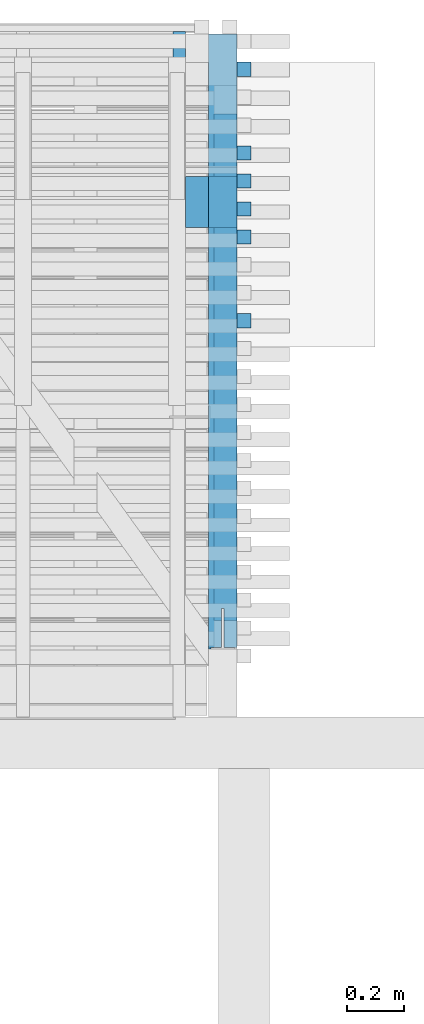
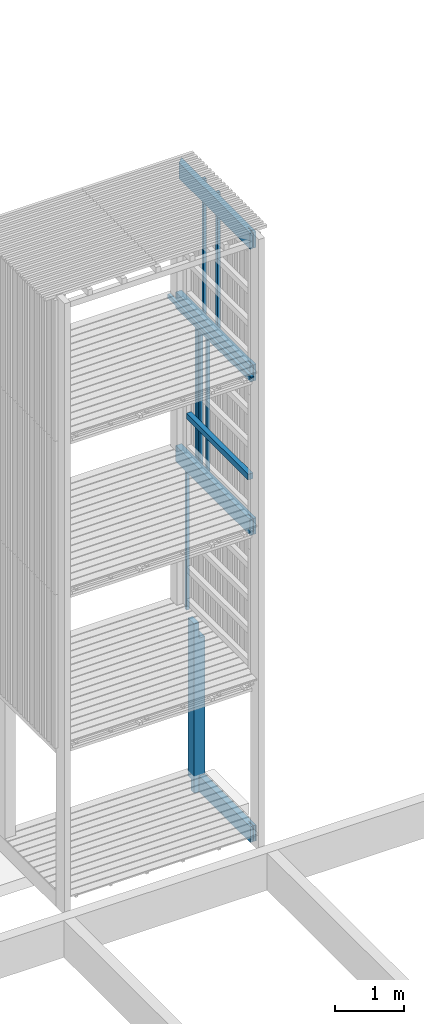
# One storey, part 158 of 182: 13 beams.
"""IFC2X3 building model written with IfcOpenShell, lengths in metres."""

from ifc_helpers import new_model, si_unit, frame, origin, place, context, project, spatial, faceted_brep, element, save


model = new_model("IFC2X3")

# Units and contexts
model_context = context("Model", 3, precision=1e-06, world=origin())
ifc_project = project(units=[si_unit("LENGTHUNIT", "METRE"), si_unit("PLANEANGLEUNIT", "RADIAN")], contexts=[model_context])

# Site, building, storey
site = spatial("IfcSite", under=ifc_project, CompositionType="ELEMENT")
building = spatial("IfcBuilding", under=site, CompositionType="ELEMENT")
storey = spatial("IfcBuildingStorey", under=building, Name="vs", CompositionType="ELEMENT", Elevation=-0.85)

# Beams
placement = place(None, origin())
beam_1_placement = place(placement, frame((36.40999999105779, 12.74689588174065, 2.575000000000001), z_axis=(-1.0, 0.0, 0.0), x_axis=(0.0, 0.0, 1.0)))
element("IfcBeam", 1, at=beam_1_placement, inside=storey, Name="Bardage", context=model_context, shape_type="Brep", body=[
    faceted_brep([(0.0, -0.025000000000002, 0.024999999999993), (0.0, 0.024999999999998, 0.024999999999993), (0.0, 0.024999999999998, -0.025000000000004), (0.0, -0.025000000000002, -0.025000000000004), (2.699961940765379, 0.025000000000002, -0.025000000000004), (2.699961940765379, 0.025000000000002, 0.024999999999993), (2.699961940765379, -0.025000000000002, 0.024999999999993), (2.699961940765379, -0.025000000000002, -0.025000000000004), (0.0, -0.025000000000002, -0.025000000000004), (0.0, 0.024999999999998, -0.025000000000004), (2.699961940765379, 0.025000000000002, -0.025000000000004), (2.699961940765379, -0.025000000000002, -0.025000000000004), (2.699961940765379, 0.025000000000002, -0.025000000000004), (0.0, 0.024999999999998, -0.025000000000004), (0.0, 0.024999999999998, 0.024999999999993), (2.699961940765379, 0.025000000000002, 0.024999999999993), (2.699961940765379, 0.025000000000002, 0.024999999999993), (0.0, 0.024999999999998, 0.024999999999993), (0.0, -0.025000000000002, 0.024999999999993), (2.699961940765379, -0.025000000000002, 0.024999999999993), (2.699961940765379, -0.025000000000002, 0.024999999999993), (0.0, -0.025000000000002, 0.024999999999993), (0.0, -0.025000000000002, -0.025000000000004), (2.699961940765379, -0.025000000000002, -0.025000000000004)], [[[0, 1, 2, 3]], [[4, 5, 6, 7]], [[8, 9, 10, 11]], [[12, 13, 14, 15]], [[16, 17, 18, 19]], [[20, 21, 22, 23]]]),
])
beam_2_placement = place(placement, frame((36.33499999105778, 10.71007769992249, -0.119999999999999), z_axis=(0.0, 0.0, 1.0), x_axis=(0.0, 1.0, 0.0)))
element("IfcBeam", 2, at=beam_2_placement, inside=storey, Name="Sommier", context=model_context, shape_type="Brep", body=[
    faceted_brep([(1.660000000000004, 0.049999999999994, 0.14), (1.660000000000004, -0.050000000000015, 0.14), (1.660000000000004, -0.050000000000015, -0.14), (1.660000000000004, 0.049999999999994, -0.14), (0.142000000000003, -0.004000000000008, -0.14), (0.142000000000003, 0.003999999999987, -0.14), (0.005000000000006, 0.003999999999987, -0.14), (0.005000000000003, 0.040999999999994, -0.14), (4e-15, 0.040999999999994, -0.14), (0.0, 0.049999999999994, -0.14), (1.660000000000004, 0.049999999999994, -0.14), (1.660000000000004, -0.050000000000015, -0.14), (0.0, -0.050000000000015, -0.14), (4e-15, -0.041000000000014, -0.14), (0.005000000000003, -0.041000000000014, -0.14), (0.005000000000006, -0.004000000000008, -0.14), (1.660000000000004, 0.049999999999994, 0.14), (1.660000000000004, 0.049999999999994, -0.14), (0.0, 0.049999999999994, -0.14), (0.0, 0.049999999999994, 0.14), (0.852999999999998, 0.049999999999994, -0.123600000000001), (0.852999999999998, 0.049999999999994, 0.051399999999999), (0.776999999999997, 0.049999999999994, 0.051399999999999), (0.776999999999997, 0.049999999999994, -0.123600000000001), (0.0, -0.050000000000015, 0.14), (4e-15, -0.041000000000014, 0.14), (4e-15, -0.041000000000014, -0.14), (0.0, -0.050000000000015, -0.14), (0.852999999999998, 0.044999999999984, -0.123600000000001), (0.776999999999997, 0.044999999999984, -0.123600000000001), (0.776999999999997, 0.044999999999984, 0.051399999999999), (0.852999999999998, 0.044999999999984, 0.051399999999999), (0.852999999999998, 0.044999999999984, 0.051399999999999), (0.776999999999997, 0.044999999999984, 0.051399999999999), (0.776999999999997, 0.049999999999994, 0.051399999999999), (0.852999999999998, 0.049999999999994, 0.051399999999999), (0.776999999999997, 0.044999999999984, -0.123600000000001), (0.852999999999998, 0.044999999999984, -0.123600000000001), (0.852999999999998, 0.049999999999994, -0.123600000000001), (0.776999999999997, 0.049999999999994, -0.123600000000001), (0.852999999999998, 0.049999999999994, 0.051399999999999), (0.852999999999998, 0.049999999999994, -0.123600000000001), (0.852999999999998, 0.044999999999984, -0.123600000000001), (0.852999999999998, 0.044999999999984, 0.051399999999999), (0.776999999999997, 0.044999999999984, 0.051399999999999), (0.776999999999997, 0.044999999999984, -0.123600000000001), (0.776999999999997, 0.049999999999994, -0.123600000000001), (0.776999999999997, 0.049999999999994, 0.051399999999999), (0.0, -0.050000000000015, -0.14), (1.660000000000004, -0.050000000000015, -0.14), (1.660000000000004, -0.050000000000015, 0.14), (0.0, -0.050000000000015, 0.14), (0.0, 0.049999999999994, 0.14), (0.0, 0.049999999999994, -0.14), (4e-15, 0.040999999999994, -0.14), (4e-15, 0.040999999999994, 0.14), (0.0, -0.050000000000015, 0.14), (1.660000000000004, -0.050000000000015, 0.14), (1.660000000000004, 0.049999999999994, 0.14), (0.0, 0.049999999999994, 0.14), (4e-15, 0.040999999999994, 0.14), (0.005000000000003, 0.040999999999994, 0.14), (0.005000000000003, 0.003999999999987, 0.14), (0.142000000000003, 0.003999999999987, 0.140000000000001), (0.142000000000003, -0.004000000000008, 0.140000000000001), (0.005000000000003, -0.004000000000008, 0.14), (0.005000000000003, -0.041000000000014, 0.14), (4e-15, -0.041000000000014, 0.14), (0.142000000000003, 0.003999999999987, -0.14), (0.142000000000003, -0.004000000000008, -0.14), (0.142000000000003, -0.004000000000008, 0.140000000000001), (0.142000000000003, 0.003999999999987, 0.140000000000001), (0.005000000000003, -0.004000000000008, 0.14), (0.142000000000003, -0.004000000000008, 0.140000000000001), (0.142000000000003, -0.004000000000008, -0.14), (0.005000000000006, -0.004000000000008, -0.14), (0.005000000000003, -0.004000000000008, 0.14), (0.005000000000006, -0.004000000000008, -0.14), (0.005000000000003, -0.041000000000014, -0.14), (0.005000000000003, -0.041000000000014, 0.14), (0.005000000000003, -0.041000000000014, 0.14), (0.005000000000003, -0.041000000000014, -0.14), (4e-15, -0.041000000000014, -0.14), (4e-15, -0.041000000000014, 0.14), (4e-15, 0.040999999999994, 0.14), (4e-15, 0.040999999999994, -0.14), (0.005000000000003, 0.040999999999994, -0.14), (0.005000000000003, 0.040999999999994, 0.14), (0.005000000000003, 0.040999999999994, 0.14), (0.005000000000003, 0.040999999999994, -0.14), (0.005000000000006, 0.003999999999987, -0.14), (0.005000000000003, 0.003999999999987, 0.14), (0.142000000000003, 0.003999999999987, 0.140000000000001), (0.005000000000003, 0.003999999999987, 0.14), (0.005000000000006, 0.003999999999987, -0.14), (0.142000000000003, 0.003999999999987, -0.14)], [[[0, 1, 2, 3]], [[4, 5, 6, 7, 8, 9, 10, 11, 12, 13, 14, 15]], [[16, 17, 18, 19], [20, 21, 22, 23]], [[24, 25, 26, 27]], [[28, 29, 30, 31]], [[32, 33, 34, 35]], [[36, 37, 38, 39]], [[40, 41, 42, 43]], [[44, 45, 46, 47]], [[48, 49, 50, 51]], [[52, 53, 54, 55]], [[56, 57, 58, 59, 60, 61, 62, 63, 64, 65, 66, 67]], [[68, 69, 70, 71]], [[72, 73, 74, 75]], [[76, 77, 78, 79]], [[80, 81, 82, 83]], [[84, 85, 86, 87]], [[88, 89, 90, 91]], [[92, 93, 94, 95]]]),
])
beam_3_placement = place(placement, frame((36.3349999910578, 10.715077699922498, 10.314999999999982), z_axis=(0.0, 0.0, 1.0), x_axis=(0.0, 1.0, 0.0)))
element("IfcBeam", 3, at=beam_3_placement, inside=storey, Name="Sommier", context=model_context, shape_type="Brep", body=[
    faceted_brep([(2.054999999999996, 0.049999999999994, 0.140000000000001), (2.054999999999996, 0.049999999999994, -0.140000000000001), (0.0, 0.049999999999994, -0.140000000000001), (0.0, 0.049999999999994, 0.140000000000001), (2.054999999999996, 0.049999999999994, -0.140000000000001), (2.054999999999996, 0.049999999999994, 0.140000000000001), (2.154999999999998, -0.05, 0.140000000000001), (2.154999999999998, -0.05, -0.140000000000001), (-4e-15, -0.003999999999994, 0.140000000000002), (0.0, -0.05, 0.140000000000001), (2.154999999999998, -0.05, 0.140000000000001), (2.054999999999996, 0.049999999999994, 0.140000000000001), (0.0, 0.049999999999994, 0.140000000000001), (-4e-15, 0.004000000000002, 0.140000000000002), (0.136999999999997, 0.004000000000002, 0.140000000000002), (0.136999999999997, -0.003999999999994, 0.140000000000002), (2.154999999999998, -0.05, -0.140000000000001), (2.154999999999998, -0.05, 0.140000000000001), (0.0, -0.05, 0.140000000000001), (0.0, -0.05, -0.140000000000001), (0.0, 0.004000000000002, -0.139999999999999), (-4e-15, 0.004000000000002, 0.140000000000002), (0.0, 0.049999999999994, 0.140000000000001), (0.0, 0.049999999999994, -0.140000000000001), (0.0, -0.05, 0.140000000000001), (-4e-15, -0.003999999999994, 0.140000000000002), (0.0, -0.003999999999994, -0.139999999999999), (0.0, -0.05, -0.140000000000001), (0.0, 0.049999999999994, -0.140000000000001), (2.054999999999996, 0.049999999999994, -0.140000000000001), (2.154999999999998, -0.05, -0.140000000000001), (0.0, -0.05, -0.140000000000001), (0.0, -0.003999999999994, -0.139999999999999), (0.136999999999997, -0.003999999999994, -0.139999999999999), (0.136999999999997, 0.004000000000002, -0.139999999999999), (0.0, 0.004000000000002, -0.139999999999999), (0.136999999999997, 0.004000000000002, -0.139999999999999), (0.136999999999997, -0.003999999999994, -0.139999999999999), (0.136999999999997, -0.003999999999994, 0.140000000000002), (0.136999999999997, 0.004000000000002, 0.140000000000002), (-4e-15, -0.003999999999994, 0.140000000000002), (0.136999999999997, -0.003999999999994, 0.140000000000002), (0.136999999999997, -0.003999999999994, -0.139999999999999), (0.0, -0.003999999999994, -0.139999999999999), (0.136999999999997, 0.004000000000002, 0.140000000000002), (-4e-15, 0.004000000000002, 0.140000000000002), (0.0, 0.004000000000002, -0.139999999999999), (0.136999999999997, 0.004000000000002, -0.139999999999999)], [[[0, 1, 2, 3]], [[4, 5, 6, 7]], [[8, 9, 10, 11, 12, 13, 14, 15]], [[16, 17, 18, 19]], [[20, 21, 22, 23]], [[24, 25, 26, 27]], [[28, 29, 30, 31, 32, 33, 34, 35]], [[36, 37, 38, 39]], [[40, 41, 42, 43]], [[44, 45, 46, 47]]]),
])
beam_4_placement = place(placement, frame((36.40999999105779, 12.157804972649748, 5.274999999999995), z_axis=(-1.0, 0.0, 0.0), x_axis=(0.0, 0.0, 1.0)))
element("IfcBeam", 4, at=beam_4_placement, inside=storey, Name="Bardage", context=model_context, shape_type="Brep", body=[
    faceted_brep([(1e-15, -0.024999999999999, 0.024999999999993), (1e-15, 0.024999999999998, 0.024999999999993), (1e-15, 0.024999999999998, -0.025000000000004), (1e-15, -0.024999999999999, -0.025000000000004), (2.699999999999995, -0.024999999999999, -0.025000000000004), (2.699999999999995, 0.025000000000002, -0.025000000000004), (2.699999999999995, 0.025000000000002, 0.024999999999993), (2.699999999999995, -0.024999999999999, 0.024999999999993), (1e-15, -0.024999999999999, 0.024999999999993), (1e-15, -0.024999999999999, -0.025000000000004), (2.699999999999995, -0.024999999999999, -0.025000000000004), (2.699999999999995, -0.024999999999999, 0.024999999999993), (2.699999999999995, -0.024999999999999, -0.025000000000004), (1e-15, -0.024999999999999, -0.025000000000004), (1e-15, 0.024999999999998, -0.025000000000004), (2.699999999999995, 0.025000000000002, -0.025000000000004), (2.699999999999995, 0.025000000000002, -0.025000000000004), (1e-15, 0.024999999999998, -0.025000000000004), (1e-15, 0.024999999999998, 0.024999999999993), (2.699999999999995, 0.025000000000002, 0.024999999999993), (2.699999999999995, 0.025000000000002, 0.024999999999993), (1e-15, 0.024999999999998, 0.024999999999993), (1e-15, -0.024999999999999, 0.024999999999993), (2.699999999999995, -0.024999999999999, 0.024999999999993)], [[[0, 1, 2, 3]], [[4, 5, 6, 7]], [[8, 9, 10, 11]], [[12, 13, 14, 15]], [[16, 17, 18, 19]], [[20, 21, 22, 23]]]),
])
beam_5_placement = place(placement, frame((36.40999999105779, 12.354168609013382, 5.274999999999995), z_axis=(-1.0, 0.0, 0.0), x_axis=(0.0, 0.0, 1.0)))
element("IfcBeam", 5, at=beam_5_placement, inside=storey, Name="Bardage", context=model_context, shape_type="Brep", body=[
    faceted_brep([(1e-15, -0.024999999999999, 0.024999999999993), (1e-15, 0.024999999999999, 0.024999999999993), (1e-15, 0.024999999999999, -0.025000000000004), (1e-15, -0.024999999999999, -0.025000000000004), (2.699999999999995, -0.024999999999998, -0.025000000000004), (2.699999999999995, 0.024999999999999, -0.025000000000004), (2.699999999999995, 0.024999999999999, 0.024999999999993), (2.699999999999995, -0.024999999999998, 0.024999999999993), (1e-15, -0.024999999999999, 0.024999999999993), (1e-15, -0.024999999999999, -0.025000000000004), (2.699999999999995, -0.024999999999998, -0.025000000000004), (2.699999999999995, -0.024999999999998, 0.024999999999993), (2.699999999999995, -0.024999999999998, -0.025000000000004), (1e-15, -0.024999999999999, -0.025000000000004), (1e-15, 0.024999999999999, -0.025000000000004), (2.699999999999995, 0.024999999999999, -0.025000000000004), (2.699999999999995, 0.024999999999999, -0.025000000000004), (1e-15, 0.024999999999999, -0.025000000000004), (1e-15, 0.024999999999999, 0.024999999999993), (2.699999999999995, 0.024999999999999, 0.024999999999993), (2.699999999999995, 0.024999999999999, 0.024999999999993), (1e-15, 0.024999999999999, 0.024999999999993), (1e-15, -0.024999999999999, 0.024999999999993), (2.699999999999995, -0.024999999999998, 0.024999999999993)], [[[0, 1, 2, 3]], [[4, 5, 6, 7]], [[8, 9, 10, 11]], [[12, 13, 14, 15]], [[16, 17, 18, 19]], [[20, 21, 22, 23]]]),
])
beam_6_placement = place(placement, frame((36.40999999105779, 12.452350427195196, 5.274999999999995), z_axis=(-1.0, 0.0, 0.0), x_axis=(0.0, 0.0, 1.0)))
element("IfcBeam", 6, at=beam_6_placement, inside=storey, Name="Bardage", context=model_context, shape_type="Brep", body=[
    faceted_brep([(1e-15, -0.024999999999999, 0.024999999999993), (1e-15, 0.025000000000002, 0.024999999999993), (1e-15, 0.025000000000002, -0.025000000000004), (1e-15, -0.024999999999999, -0.025000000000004), (2.699999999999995, -0.024999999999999, -0.025000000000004), (2.699999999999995, 0.025000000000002, -0.025000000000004), (2.699999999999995, 0.025000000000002, 0.024999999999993), (2.699999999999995, -0.024999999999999, 0.024999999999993), (1e-15, -0.024999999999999, 0.024999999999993), (1e-15, -0.024999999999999, -0.025000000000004), (2.699999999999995, -0.024999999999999, -0.025000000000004), (2.699999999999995, -0.024999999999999, 0.024999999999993), (2.699999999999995, -0.024999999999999, -0.025000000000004), (1e-15, -0.024999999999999, -0.025000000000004), (1e-15, 0.025000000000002, -0.025000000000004), (2.699999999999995, 0.025000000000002, -0.025000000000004), (2.699999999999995, 0.025000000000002, -0.025000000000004), (1e-15, 0.025000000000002, -0.025000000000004), (1e-15, 0.025000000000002, 0.024999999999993), (2.699999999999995, 0.025000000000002, 0.024999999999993), (2.699999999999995, 0.025000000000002, 0.024999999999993), (1e-15, 0.025000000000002, 0.024999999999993), (1e-15, -0.024999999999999, 0.024999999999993), (2.699999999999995, -0.024999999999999, 0.024999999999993)], [[[0, 1, 2, 3]], [[4, 5, 6, 7]], [[8, 9, 10, 11]], [[12, 13, 14, 15]], [[16, 17, 18, 19]], [[20, 21, 22, 23]]]),
])
beam_7_placement = place(placement, frame((36.29499999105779, 12.280077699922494, -0.26), z_axis=(0.0, -1.0, 0.0), x_axis=(0.0, 0.0, 1.0)))
element("IfcBeam", 7, at=beam_7_placement, inside=storey, Name="Poteau", context=model_context, shape_type="Brep", body=[
    faceted_brep([(2.699999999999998, -0.09, -0.09), (2.699999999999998, -0.09, 0.09), (0.28, -0.09, 0.09), (0.280000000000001, -0.09, -0.09), (0.0, 0.090000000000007, 0.09), (0.0, 0.090000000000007, -0.009999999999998), (0.0, 0.010000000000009, -0.009999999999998), (0.0, 0.010000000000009, 0.09), (0.280000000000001, -0.09, -0.09), (0.28, -0.09, 0.09), (0.28, 0.010000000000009, 0.09), (0.28, 0.010000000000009, -0.09), (0.200000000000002, 0.090000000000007, -0.09), (0.200000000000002, 0.010000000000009, -0.09), (0.200000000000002, 0.010000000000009, -0.009999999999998), (0.200000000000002, 0.090000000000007, -0.009999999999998), (0.200000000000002, 0.090000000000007, -0.009999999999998), (0.200000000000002, 0.010000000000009, -0.009999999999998), (0.0, 0.010000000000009, -0.009999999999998), (0.0, 0.090000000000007, -0.009999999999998), (0.0, 0.010000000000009, -0.009999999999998), (0.200000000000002, 0.010000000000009, -0.009999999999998), (0.200000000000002, 0.010000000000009, -0.09), (0.28, 0.010000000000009, -0.09), (0.28, 0.010000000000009, 0.09), (0.0, 0.010000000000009, 0.09), (2.979999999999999, 0.010000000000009, -0.09), (2.699999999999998, 0.010000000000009, -0.09), (2.699999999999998, -0.09, -0.09), (0.280000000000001, -0.09, -0.09), (0.28, 0.010000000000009, -0.09), (0.200000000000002, 0.010000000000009, -0.09), (0.200000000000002, 0.090000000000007, -0.09), (2.979999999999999, 0.090000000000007, -0.09), (2.979999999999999, 0.090000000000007, -0.09), (0.200000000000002, 0.090000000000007, -0.09), (0.200000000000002, 0.090000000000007, -0.009999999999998), (0.0, 0.090000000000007, -0.009999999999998), (0.0, 0.090000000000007, 0.09), (2.979999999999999, 0.090000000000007, 0.09), (2.699999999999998, 0.010000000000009, 0.09), (2.979999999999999, 0.010000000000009, 0.09), (2.979999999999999, 0.090000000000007, 0.09), (0.0, 0.090000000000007, 0.09), (0.0, 0.010000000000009, 0.09), (0.28, 0.010000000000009, 0.09), (0.28, -0.09, 0.09), (2.699999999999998, -0.09, 0.09), (2.979999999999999, 0.090000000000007, -0.09), (2.979999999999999, 0.090000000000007, 0.09), (2.979999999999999, 0.010000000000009, 0.09), (2.979999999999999, 0.010000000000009, -0.09), (2.979999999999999, 0.010000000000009, -0.09), (2.979999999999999, 0.010000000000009, 0.09), (2.699999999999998, 0.010000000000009, 0.09), (2.699999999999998, 0.010000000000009, -0.09), (2.699999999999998, 0.010000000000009, -0.09), (2.699999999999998, 0.010000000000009, 0.09), (2.699999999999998, -0.09, 0.09), (2.699999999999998, -0.09, -0.09)], [[[0, 1, 2, 3]], [[4, 5, 6, 7]], [[8, 9, 10, 11]], [[12, 13, 14, 15]], [[16, 17, 18, 19]], [[20, 21, 22, 23, 24, 25]], [[26, 27, 28, 29, 30, 31, 32, 33]], [[34, 35, 36, 37, 38, 39]], [[40, 41, 42, 43, 44, 45, 46, 47]], [[48, 49, 50, 51]], [[52, 53, 54, 55]], [[56, 57, 58, 59]]]),
])
beam_8_placement = place(placement, frame((36.33499999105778, 10.715077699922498, 7.979999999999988), z_axis=(0.0, 0.0, 1.0), x_axis=(0.0, 1.0, 0.0)))
element("IfcBeam", 8, at=beam_8_placement, inside=storey, Name="Sommier", context=model_context, shape_type="Brep", body=[
    faceted_brep([(2.154999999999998, -0.050000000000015, -0.14), (2.154999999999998, -0.050000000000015, 0.140000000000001), (0.0, -0.050000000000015, 0.140000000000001), (0.0, -0.050000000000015, -0.14), (-4e-15, -0.004000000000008, 0.140000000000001), (0.0, -0.050000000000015, 0.140000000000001), (2.154999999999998, -0.050000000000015, 0.140000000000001), (2.154999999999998, 0.049999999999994, 0.140000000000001), (0.0, 0.049999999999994, 0.140000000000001), (-4e-15, 0.003999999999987, 0.140000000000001), (0.136999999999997, 0.003999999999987, 0.140000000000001), (0.136999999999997, -0.004000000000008, 0.140000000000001), (2.154999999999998, 0.049999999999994, 0.140000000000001), (2.154999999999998, -0.050000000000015, 0.140000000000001), (2.154999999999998, -0.050000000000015, -0.14), (2.154999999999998, 0.049999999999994, -0.14), (0.847999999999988, 0.044999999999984, -0.14), (0.771999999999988, 0.044999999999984, -0.14), (0.771999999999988, 0.044999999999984, 0.035000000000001), (0.847999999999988, 0.044999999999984, 0.035000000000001), (0.847999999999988, 0.044999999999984, 0.035000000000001), (0.771999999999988, 0.044999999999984, 0.035000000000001), (0.771999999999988, 0.049999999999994, 0.035000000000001), (0.847999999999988, 0.049999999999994, 0.035000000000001), (0.847999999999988, 0.049999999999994, -0.14), (0.847999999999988, 0.044999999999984, -0.14), (0.847999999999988, 0.044999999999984, 0.035000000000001), (0.847999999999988, 0.049999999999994, 0.035000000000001), (0.771999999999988, 0.044999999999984, 0.035000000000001), (0.771999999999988, 0.044999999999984, -0.14), (0.771999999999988, 0.049999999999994, -0.14), (0.771999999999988, 0.049999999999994, 0.035000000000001), (0.0, 0.049999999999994, 0.140000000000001), (2.154999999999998, 0.049999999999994, 0.140000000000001), (2.154999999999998, 0.049999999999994, -0.14), (0.847999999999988, 0.049999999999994, -0.14), (0.847999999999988, 0.049999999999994, 0.035000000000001), (0.771999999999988, 0.049999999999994, 0.035000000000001), (0.771999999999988, 0.049999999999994, -0.14), (0.0, 0.049999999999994, -0.14), (0.0, 0.003999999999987, -0.14), (-4e-15, 0.003999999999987, 0.140000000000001), (0.0, 0.049999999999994, 0.140000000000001), (0.0, 0.049999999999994, -0.14), (0.0, -0.050000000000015, 0.140000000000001), (-4e-15, -0.004000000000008, 0.140000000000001), (0.0, -0.004000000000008, -0.14), (0.0, -0.050000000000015, -0.14), (0.0, 0.049999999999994, -0.14), (0.771999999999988, 0.049999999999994, -0.14), (0.771999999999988, 0.044999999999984, -0.14), (0.847999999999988, 0.044999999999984, -0.14), (0.847999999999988, 0.049999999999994, -0.14), (2.154999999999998, 0.049999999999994, -0.14), (2.154999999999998, -0.050000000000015, -0.14), (0.0, -0.050000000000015, -0.14), (0.0, -0.004000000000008, -0.14), (0.136999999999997, -0.004000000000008, -0.14), (0.136999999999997, 0.003999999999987, -0.14), (0.0, 0.003999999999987, -0.14), (0.136999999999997, 0.003999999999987, -0.14), (0.136999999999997, -0.004000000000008, -0.14), (0.136999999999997, -0.004000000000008, 0.140000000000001), (0.136999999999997, 0.003999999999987, 0.140000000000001), (-4e-15, -0.004000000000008, 0.140000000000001), (0.136999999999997, -0.004000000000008, 0.140000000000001), (0.136999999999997, -0.004000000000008, -0.14), (0.0, -0.004000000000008, -0.14), (0.136999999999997, 0.003999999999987, 0.140000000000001), (-4e-15, 0.003999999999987, 0.140000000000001), (0.0, 0.003999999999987, -0.14), (0.136999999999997, 0.003999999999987, -0.14)], [[[0, 1, 2, 3]], [[4, 5, 6, 7, 8, 9, 10, 11]], [[12, 13, 14, 15]], [[16, 17, 18, 19]], [[20, 21, 22, 23]], [[24, 25, 26, 27]], [[28, 29, 30, 31]], [[32, 33, 34, 35, 36, 37, 38, 39]], [[40, 41, 42, 43]], [[44, 45, 46, 47]], [[48, 49, 50, 51, 52, 53, 54, 55, 56, 57, 58, 59]], [[60, 61, 62, 63]], [[64, 65, 66, 67]], [[68, 69, 70, 71]]]),
])
beam_9_placement = place(placement, frame((36.40999999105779, 11.863259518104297, 7.974999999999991), z_axis=(-1.0, 0.0, 0.0), x_axis=(0.0, 0.0, 1.0)))
element("IfcBeam", 9, at=beam_9_placement, inside=storey, Name="Bardage", context=model_context, shape_type="Brep", body=[
    faceted_brep([(2.479999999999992, -0.024999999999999, 0.024999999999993), (2.479999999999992, -0.024999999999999, -0.025000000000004), (2.479999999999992, 0.024999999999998, -0.025000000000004), (2.479999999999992, 0.024999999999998, 0.024999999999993), (0.0, 0.024999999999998, 0.024999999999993), (0.0, -0.024999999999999, 0.024999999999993), (2.479999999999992, -0.024999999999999, 0.024999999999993), (2.479999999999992, 0.024999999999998, 0.024999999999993), (0.0, -0.024999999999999, 0.024999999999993), (0.0, 0.024999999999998, 0.024999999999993), (0.0, 0.024999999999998, -0.025000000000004), (0.0, -0.024999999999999, -0.025000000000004), (0.0, 0.024999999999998, -0.025000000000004), (0.0, 0.024999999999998, 0.024999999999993), (2.479999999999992, 0.024999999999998, 0.024999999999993), (2.479999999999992, 0.024999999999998, -0.025000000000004), (0.0, -0.024999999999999, -0.025000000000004), (0.0, 0.024999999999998, -0.025000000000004), (2.479999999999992, 0.024999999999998, -0.025000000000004), (2.479999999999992, -0.024999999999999, -0.025000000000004), (2.479999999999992, -0.024999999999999, 0.024999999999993), (0.0, -0.024999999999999, 0.024999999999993), (0.0, -0.024999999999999, -0.025000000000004), (2.479999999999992, -0.024999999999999, -0.025000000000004)], [[[0, 1, 2, 3]], [[4, 5, 6, 7]], [[8, 9, 10, 11]], [[12, 13, 14, 15]], [[16, 17, 18, 19]], [[20, 21, 22, 23]]]),
])
beam_10_placement = place(placement, frame((36.344999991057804, 10.8100776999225, 6.101249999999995), z_axis=(0.0, 0.0, 1.0), x_axis=(0.0, 1.0, 0.0)))
element("IfcBeam", 10, at=beam_10_placement, inside=storey, Name="Support bardage", context=model_context, shape_type="Brep", body=[
    faceted_brep([(1.779999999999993, -0.039999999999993, 0.050000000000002), (1.779999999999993, -0.039999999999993, -0.05), (1.779999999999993, 0.04000000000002, -0.05), (1.779999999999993, 0.04000000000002, 0.050000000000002), (-4e-15, -0.039999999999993, -0.05), (1.779999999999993, -0.039999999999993, -0.05), (1.779999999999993, -0.039999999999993, 0.050000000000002), (-4e-15, -0.039999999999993, 0.050000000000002), (-4e-15, 0.04000000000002, -0.05), (1.779999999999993, 0.04000000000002, -0.05), (1.779999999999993, -0.039999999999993, -0.05), (-4e-15, -0.039999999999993, -0.05), (-4e-15, 0.04000000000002, 0.050000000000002), (1.779999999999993, 0.04000000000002, 0.050000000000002), (1.779999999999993, 0.04000000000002, -0.05), (-4e-15, 0.04000000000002, -0.05), (-4e-15, -0.039999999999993, 0.050000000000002), (1.779999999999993, -0.039999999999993, 0.050000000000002), (1.779999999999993, 0.04000000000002, 0.050000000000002), (-4e-15, 0.04000000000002, 0.050000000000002), (-4e-15, -0.039999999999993, -0.05), (-4e-15, -0.039999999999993, 0.050000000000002), (-4e-15, 0.04000000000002, 0.050000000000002), (-4e-15, 0.04000000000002, -0.05)], [[[0, 1, 2, 3]], [[4, 5, 6, 7]], [[8, 9, 10, 11]], [[12, 13, 14, 15]], [[16, 17, 18, 19]], [[20, 21, 22, 23]]]),
])
beam_11_placement = place(placement, frame((36.40999999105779, 12.255986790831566, 7.974999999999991), z_axis=(-1.0, 0.0, 0.0), x_axis=(0.0, 0.0, 1.0)))
element("IfcBeam", 11, at=beam_11_placement, inside=storey, Name="Bardage", context=model_context, shape_type="Brep", body=[
    faceted_brep([(2.479999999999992, -0.025000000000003, 0.024999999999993), (2.479999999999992, -0.025000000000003, -0.025000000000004), (2.479999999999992, 0.025000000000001, -0.025000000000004), (2.479999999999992, 0.025000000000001, 0.024999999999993), (0.0, 0.025000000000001, 0.024999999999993), (0.0, -0.025000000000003, 0.024999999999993), (2.479999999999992, -0.025000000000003, 0.024999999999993), (2.479999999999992, 0.025000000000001, 0.024999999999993), (0.0, -0.025000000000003, 0.024999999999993), (0.0, 0.025000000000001, 0.024999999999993), (0.0, 0.025000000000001, -0.025000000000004), (0.0, -0.025000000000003, -0.025000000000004), (0.0, 0.025000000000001, -0.025000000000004), (0.0, 0.025000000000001, 0.024999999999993), (2.479999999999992, 0.025000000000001, 0.024999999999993), (2.479999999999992, 0.025000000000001, -0.025000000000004), (0.0, -0.025000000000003, -0.025000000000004), (0.0, 0.025000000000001, -0.025000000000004), (2.479999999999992, 0.025000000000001, -0.025000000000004), (2.479999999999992, -0.025000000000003, -0.025000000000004), (2.479999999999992, -0.025000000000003, 0.024999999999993), (0.0, -0.025000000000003, 0.024999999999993), (0.0, -0.025000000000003, -0.025000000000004), (2.479999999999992, -0.025000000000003, -0.025000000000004)], [[[0, 1, 2, 3]], [[4, 5, 6, 7]], [[8, 9, 10, 11]], [[12, 13, 14, 15]], [[16, 17, 18, 19]], [[20, 21, 22, 23]]]),
])
beam_12_placement = place(placement, frame((36.182499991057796, 10.470077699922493, 8.084400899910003), z_axis=(0.0, 0.0, 1.0), x_axis=(0.0, 1.0, 0.0)))
element("IfcBeam", 12, at=beam_12_placement, inside=storey, Name="Calage", context=model_context, shape_type="Brep", body=[
    faceted_brep([(2.410000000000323, -0.022499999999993, -0.035599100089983), (0.0, -0.022499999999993, 0.012600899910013), (0.0, 0.022500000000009, 0.012600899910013), (2.410000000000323, 0.022500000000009, -0.035599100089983), (0.0, 0.022500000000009, 0.035599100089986), (0.0, 0.022500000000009, 0.012600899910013), (0.0, -0.022499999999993, 0.012600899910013), (0.0, -0.022499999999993, 0.035599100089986), (2.410000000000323, 0.022500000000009, -0.035599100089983), (0.0, 0.022500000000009, 0.012600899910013), (0.0, 0.022500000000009, 0.035599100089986), (2.410000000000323, 0.022500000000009, 0.035599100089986), (2.410000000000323, -0.022499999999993, 0.035599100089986), (0.0, -0.022499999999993, 0.035599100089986), (0.0, -0.022499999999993, 0.012600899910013), (2.410000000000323, -0.022499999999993, -0.035599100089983), (2.410000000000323, 0.022500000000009, 0.035599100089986), (0.0, 0.022500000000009, 0.035599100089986), (0.0, -0.022499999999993, 0.035599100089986), (2.410000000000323, -0.022499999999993, 0.035599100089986), (2.410000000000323, 0.022500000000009, -0.035599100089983), (2.410000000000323, 0.022500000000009, 0.035599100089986), (2.410000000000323, -0.022499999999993, 0.035599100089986), (2.410000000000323, -0.022499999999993, -0.035599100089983)], [[[0, 1, 2, 3]], [[4, 5, 6, 7]], [[8, 9, 10, 11]], [[12, 13, 14, 15]], [[16, 17, 18, 19]], [[20, 21, 22, 23]]]),
])
beam_13_placement = place(placement, frame((36.33499999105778, 10.715077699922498, 5.279999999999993), z_axis=(0.0, 0.0, 1.0), x_axis=(0.0, 1.0, 0.0)))
element("IfcBeam", 13, at=beam_13_placement, inside=storey, Name="Sommier", context=model_context, shape_type="Brep", body=[
    faceted_brep([(2.154999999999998, -0.050000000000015, -0.140000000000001), (2.154999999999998, -0.050000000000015, 0.140000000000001), (0.0, -0.050000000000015, 0.140000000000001), (0.0, -0.050000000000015, -0.140000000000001), (-4e-15, -0.004000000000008, 0.140000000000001), (0.0, -0.050000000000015, 0.140000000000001), (2.154999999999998, -0.050000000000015, 0.140000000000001), (2.154999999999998, 0.049999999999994, 0.140000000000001), (0.0, 0.049999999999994, 0.140000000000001), (-4e-15, 0.003999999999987, 0.140000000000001), (0.136999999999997, 0.003999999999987, 0.140000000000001), (0.136999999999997, -0.004000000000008, 0.140000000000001), (2.154999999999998, 0.049999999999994, 0.140000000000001), (2.154999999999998, -0.050000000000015, 0.140000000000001), (2.154999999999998, -0.050000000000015, -0.140000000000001), (2.154999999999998, 0.049999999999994, -0.140000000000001), (0.847999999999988, 0.044999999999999, -0.140000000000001), (0.771999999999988, 0.044999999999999, -0.140000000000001), (0.771999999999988, 0.044999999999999, 0.034999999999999), (0.847999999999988, 0.044999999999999, 0.034999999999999), (0.847999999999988, 0.044999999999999, 0.034999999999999), (0.771999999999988, 0.044999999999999, 0.034999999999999), (0.771999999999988, 0.049999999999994, 0.034999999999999), (0.847999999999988, 0.049999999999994, 0.034999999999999), (0.847999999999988, 0.049999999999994, -0.140000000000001), (0.847999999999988, 0.044999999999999, -0.140000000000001), (0.847999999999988, 0.044999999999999, 0.034999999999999), (0.847999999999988, 0.049999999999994, 0.034999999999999), (0.771999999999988, 0.044999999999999, 0.034999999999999), (0.771999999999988, 0.044999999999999, -0.140000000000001), (0.771999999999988, 0.049999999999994, -0.140000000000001), (0.771999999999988, 0.049999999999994, 0.034999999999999), (0.0, 0.049999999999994, 0.140000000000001), (2.154999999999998, 0.049999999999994, 0.140000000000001), (2.154999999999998, 0.049999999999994, -0.140000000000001), (0.847999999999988, 0.049999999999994, -0.140000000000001), (0.847999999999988, 0.049999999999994, 0.034999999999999), (0.771999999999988, 0.049999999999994, 0.034999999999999), (0.771999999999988, 0.049999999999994, -0.140000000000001), (0.0, 0.049999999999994, -0.140000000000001), (0.0, 0.003999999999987, -0.140000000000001), (-4e-15, 0.003999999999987, 0.140000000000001), (0.0, 0.049999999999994, 0.140000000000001), (0.0, 0.049999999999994, -0.140000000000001), (0.0, -0.050000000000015, 0.140000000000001), (-4e-15, -0.004000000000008, 0.140000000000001), (0.0, -0.004000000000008, -0.140000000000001), (0.0, -0.050000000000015, -0.140000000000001), (0.0, 0.049999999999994, -0.140000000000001), (0.771999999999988, 0.049999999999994, -0.140000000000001), (0.771999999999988, 0.044999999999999, -0.140000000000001), (0.847999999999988, 0.044999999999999, -0.140000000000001), (0.847999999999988, 0.049999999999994, -0.140000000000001), (2.154999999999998, 0.049999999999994, -0.140000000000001), (2.154999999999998, -0.050000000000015, -0.140000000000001), (0.0, -0.050000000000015, -0.140000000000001), (0.0, -0.004000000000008, -0.140000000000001), (0.136999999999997, -0.004000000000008, -0.140000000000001), (0.136999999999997, 0.003999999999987, -0.140000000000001), (0.0, 0.003999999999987, -0.140000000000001), (0.136999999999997, 0.003999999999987, -0.140000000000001), (0.136999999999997, -0.004000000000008, -0.140000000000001), (0.136999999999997, -0.004000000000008, 0.140000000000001), (0.136999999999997, 0.003999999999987, 0.140000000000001), (-4e-15, -0.004000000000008, 0.140000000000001), (0.136999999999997, -0.004000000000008, 0.140000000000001), (0.136999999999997, -0.004000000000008, -0.140000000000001), (0.0, -0.004000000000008, -0.140000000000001), (0.136999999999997, 0.003999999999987, 0.140000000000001), (-4e-15, 0.003999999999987, 0.140000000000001), (0.0, 0.003999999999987, -0.140000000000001), (0.136999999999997, 0.003999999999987, -0.140000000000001)], [[[0, 1, 2, 3]], [[4, 5, 6, 7, 8, 9, 10, 11]], [[12, 13, 14, 15]], [[16, 17, 18, 19]], [[20, 21, 22, 23]], [[24, 25, 26, 27]], [[28, 29, 30, 31]], [[32, 33, 34, 35, 36, 37, 38, 39]], [[40, 41, 42, 43]], [[44, 45, 46, 47]], [[48, 49, 50, 51, 52, 53, 54, 55, 56, 57, 58, 59]], [[60, 61, 62, 63]], [[64, 65, 66, 67]], [[68, 69, 70, 71]]]),
])

save(model, "model.ifc")
